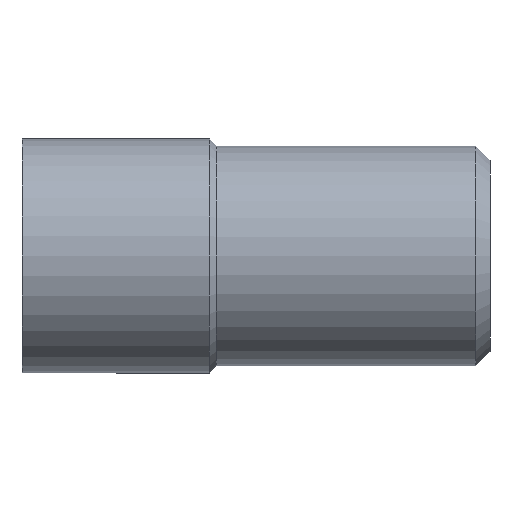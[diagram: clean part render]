
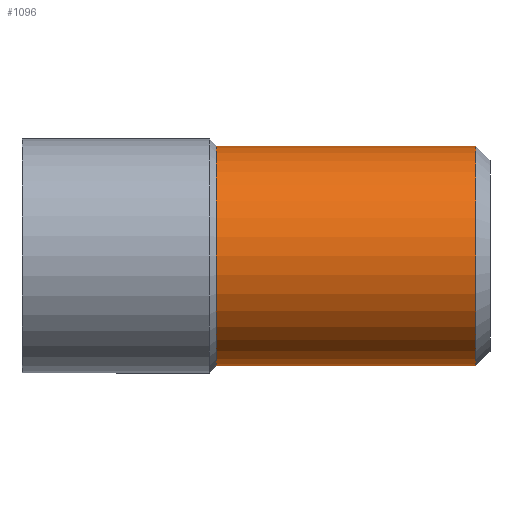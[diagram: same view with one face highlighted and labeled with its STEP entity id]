
A CAD part, left-side view. The second image highlights one B-rep face of the part: STEP entity #1096.
In plain terms, the highlighted cylindrical face has radius 2.35 mm (diameter 4.7 mm), a partial arc.
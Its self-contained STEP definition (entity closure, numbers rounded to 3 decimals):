
#224 = DIRECTION ( 'NONE',  ( 0., 1., 0. ) ) ;
#233 = EDGE_CURVE ( 'NONE', #852, #1227, #1323, .T. ) ;
#318 = ORIENTED_EDGE ( 'NONE', *, *, #2378, .F. ) ;
#431 = VERTEX_POINT ( 'NONE', #2789 ) ;
#455 = AXIS2_PLACEMENT_3D ( 'NONE', #923, #1045, #1054 ) ;
#704 = CARTESIAN_POINT ( 'NONE',  ( 0., -9.7, 0. ) ) ;
#733 = CARTESIAN_POINT ( 'NONE',  ( 0., -4.15, 0. ) ) ;
#757 = FACE_OUTER_BOUND ( 'NONE', #2873, .T. ) ;
#851 = ORIENTED_EDGE ( 'NONE', *, *, #1308, .T. ) ;
#852 = VERTEX_POINT ( 'NONE', #1560 ) ;
#923 = CARTESIAN_POINT ( 'NONE',  ( 0., 3.29, 0. ) ) ;
#929 = AXIS2_PLACEMENT_3D ( 'NONE', #733, #1770, #1622 ) ;
#983 = EDGE_CURVE ( 'NONE', #3123, #431, #2302, .T. ) ;
#1045 = DIRECTION ( 'NONE',  ( 0., 1., 0. ) ) ;
#1054 = DIRECTION ( 'NONE',  ( 0., 0., 1. ) ) ;
#1096 = ADVANCED_FACE ( 'NONE', ( #757 ), #2487, .T. ) ;
#1151 = CARTESIAN_POINT ( 'NONE',  ( 0., -4.15, -2.35 ) ) ;
#1227 = VERTEX_POINT ( 'NONE', #1151 ) ;
#1308 = EDGE_CURVE ( 'NONE', #852, #3123, #2457, .T. ) ;
#1323 = LINE ( 'NONE', #1579, #3114 ) ;
#1425 = ORIENTED_EDGE ( 'NONE', *, *, #983, .T. ) ;
#1560 = CARTESIAN_POINT ( 'NONE',  ( 0., -9.7, -2.35 ) ) ;
#1579 = CARTESIAN_POINT ( 'NONE',  ( 0., 3.29, -2.35 ) ) ;
#1622 = DIRECTION ( 'NONE',  ( 0., 0., 1. ) ) ;
#1739 = VECTOR ( 'NONE', #224, 1000. ) ;
#1770 = DIRECTION ( 'NONE',  ( 0., 1., 0. ) ) ;
#2080 = CARTESIAN_POINT ( 'NONE',  ( 0., -9.7, 2.35 ) ) ;
#2082 = ORIENTED_EDGE ( 'NONE', *, *, #233, .F. ) ;
#2277 = DIRECTION ( 'NONE',  ( 0., 0., 1. ) ) ;
#2302 = LINE ( 'NONE', #2540, #1739 ) ;
#2378 = EDGE_CURVE ( 'NONE', #1227, #431, #2842, .T. ) ;
#2457 = CIRCLE ( 'NONE', #3088, 2.35 ) ;
#2487 = CYLINDRICAL_SURFACE ( 'NONE', #455, 2.35 ) ;
#2540 = CARTESIAN_POINT ( 'NONE',  ( 0., 3.29, 2.35 ) ) ;
#2789 = CARTESIAN_POINT ( 'NONE',  ( 0., -4.15, 2.35 ) ) ;
#2794 = DIRECTION ( 'NONE',  ( 0., 1., 0. ) ) ;
#2842 = CIRCLE ( 'NONE', #929, 2.35 ) ;
#2873 = EDGE_LOOP ( 'NONE', ( #2082, #851, #1425, #318 ) ) ;
#2916 = DIRECTION ( 'NONE',  ( 0., 1., 0. ) ) ;
#3088 = AXIS2_PLACEMENT_3D ( 'NONE', #704, #2916, #2277 ) ;
#3114 = VECTOR ( 'NONE', #2794, 1000. ) ;
#3123 = VERTEX_POINT ( 'NONE', #2080 ) ;
